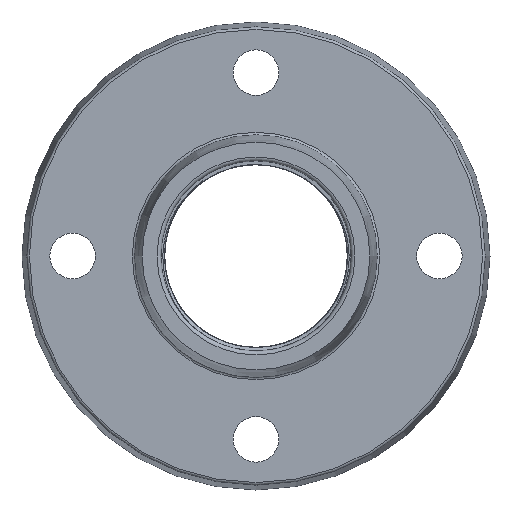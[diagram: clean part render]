
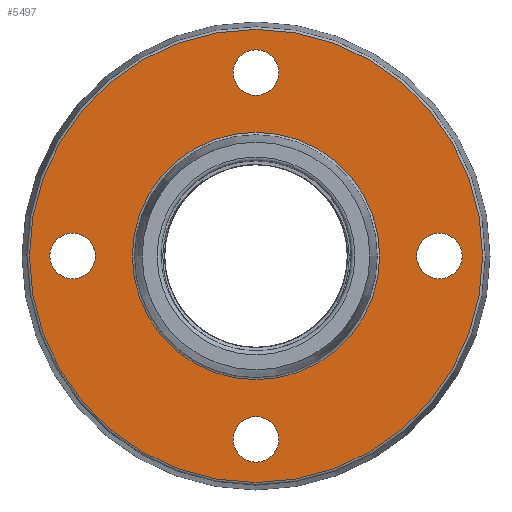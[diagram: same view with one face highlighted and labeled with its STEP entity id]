
A CAD part, left-side view. The second image highlights one B-rep face of the part: STEP entity #5497.
In plain terms, the highlighted planar face has unit normal (-1, 0, 0).
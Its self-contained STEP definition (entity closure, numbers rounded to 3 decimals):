
#55=FACE_BOUND('',#1461,.T.);
#56=FACE_BOUND('',#1462,.T.);
#57=FACE_BOUND('',#1463,.T.);
#58=FACE_BOUND('',#1464,.T.);
#59=FACE_BOUND('',#1465,.T.);
#118=PLANE('',#6439);
#1035=FACE_OUTER_BOUND('',#1460,.T.);
#1460=EDGE_LOOP('',(#4888));
#1461=EDGE_LOOP('',(#4889));
#1462=EDGE_LOOP('',(#4890));
#1463=EDGE_LOOP('',(#4891));
#1464=EDGE_LOOP('',(#4892));
#1465=EDGE_LOOP('',(#4893));
#2109=CIRCLE('',#6423,9.);
#2111=CIRCLE('',#6427,9.);
#2113=CIRCLE('',#6431,9.);
#2115=CIRCLE('',#6435,9.);
#2116=CIRCLE('',#6437,48.899);
#2118=CIRCLE('',#6440,89.566);
#2550=VERTEX_POINT('',#10507);
#2552=VERTEX_POINT('',#10513);
#2554=VERTEX_POINT('',#10519);
#2556=VERTEX_POINT('',#10525);
#2557=VERTEX_POINT('',#10528);
#2559=VERTEX_POINT('',#10533);
#3339=EDGE_CURVE('',#2550,#2550,#2109,.T.);
#3341=EDGE_CURVE('',#2552,#2552,#2111,.T.);
#3343=EDGE_CURVE('',#2554,#2554,#2113,.T.);
#3345=EDGE_CURVE('',#2556,#2556,#2115,.T.);
#3346=EDGE_CURVE('',#2557,#2557,#2116,.T.);
#3348=EDGE_CURVE('',#2559,#2559,#2118,.T.);
#4888=ORIENTED_EDGE('',*,*,#3348,.F.);
#4889=ORIENTED_EDGE('',*,*,#3341,.T.);
#4890=ORIENTED_EDGE('',*,*,#3343,.T.);
#4891=ORIENTED_EDGE('',*,*,#3345,.T.);
#4892=ORIENTED_EDGE('',*,*,#3339,.T.);
#4893=ORIENTED_EDGE('',*,*,#3346,.F.);
#5497=ADVANCED_FACE('',(#1035,#55,#56,#57,#58,#59),#118,.T.);
#6423=AXIS2_PLACEMENT_3D('',#10508,#8449,#8450);
#6427=AXIS2_PLACEMENT_3D('',#10514,#8457,#8458);
#6431=AXIS2_PLACEMENT_3D('',#10520,#8465,#8466);
#6435=AXIS2_PLACEMENT_3D('',#10526,#8473,#8474);
#6437=AXIS2_PLACEMENT_3D('',#10529,#8477,#8478);
#6439=AXIS2_PLACEMENT_3D('',#10532,#8481,#8482);
#6440=AXIS2_PLACEMENT_3D('',#10534,#8483,#8484);
#8449=DIRECTION('center_axis',(1.,0.,0.));
#8450=DIRECTION('ref_axis',(0.,0.,1.));
#8457=DIRECTION('center_axis',(1.,0.,0.));
#8458=DIRECTION('ref_axis',(0.,1.,0.));
#8465=DIRECTION('center_axis',(1.,0.,0.));
#8466=DIRECTION('ref_axis',(0.,0.,-1.));
#8473=DIRECTION('center_axis',(1.,0.,0.));
#8474=DIRECTION('ref_axis',(0.,-1.,0.));
#8477=DIRECTION('center_axis',(-1.,0.,0.));
#8478=DIRECTION('ref_axis',(0.,1.,0.));
#8481=DIRECTION('center_axis',(-1.,0.,0.));
#8482=DIRECTION('ref_axis',(0.,0.,1.));
#8483=DIRECTION('center_axis',(1.,0.,0.));
#8484=DIRECTION('ref_axis',(0.,1.,0.));
#10507=CARTESIAN_POINT('',(28.,72.5,9.));
#10508=CARTESIAN_POINT('Origin',(28.,72.5,0.));
#10513=CARTESIAN_POINT('',(28.,9.,-72.5));
#10514=CARTESIAN_POINT('Origin',(28.,0.,-72.5));
#10519=CARTESIAN_POINT('',(28.,-72.5,-9.));
#10520=CARTESIAN_POINT('Origin',(28.,-72.5,0.));
#10525=CARTESIAN_POINT('',(28.,-9.,72.5));
#10526=CARTESIAN_POINT('Origin',(28.,0.,72.5));
#10528=CARTESIAN_POINT('',(28.,-48.899,0.));
#10529=CARTESIAN_POINT('Origin',(28.,0.,0.));
#10532=CARTESIAN_POINT('Origin',(28.,-48.,0.));
#10533=CARTESIAN_POINT('',(28.,-89.566,0.));
#10534=CARTESIAN_POINT('Origin',(28.,0.,0.));
